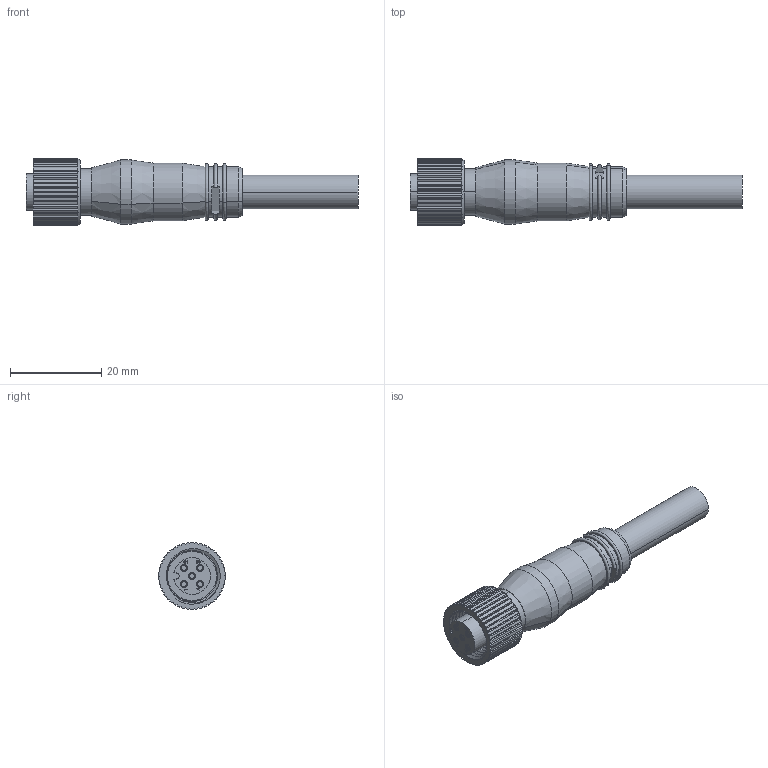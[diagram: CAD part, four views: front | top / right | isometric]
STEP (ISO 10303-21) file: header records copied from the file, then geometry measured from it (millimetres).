
FILE_DESCRIPTION (( 'STEP AP214' ), '1' );
FILE_NAME ('MDC-4FPX-ZZ.STEP', '2011-04-03T20:07:53', ( 'Bruce' ), ( 'HP' ), 'SwSTEP 2.0', 'SolidWorks 2011', '' );
FILE_SCHEMA (( 'AUTOMOTIVE_DESIGN' ));
Length unit declared in the file: millimetre
Products named in the file (1): MDC-4FPX-ZZ
Bounding box: 72.85 x 14.65 x 14.66 mm (x, y, z)
Volume: 8540.8 mm3; surface area: 4750.8 mm2
Topology: 2 solids, 2 shells, 323 faces, 905 edges, 599 vertices
Faces by surface type: plane 167, cylinder 115, bspline 23, cone 12, torus 6
Entity records: 16172 total; most frequent: CARTESIAN_POINT 4526, ORIENTED_EDGE 1810, DIRECTION 1571, EDGE_CURVE 905, VERTEX_POINT 599, AXIS2_PLACEMENT_3D 552, LINE 467, VECTOR 467
